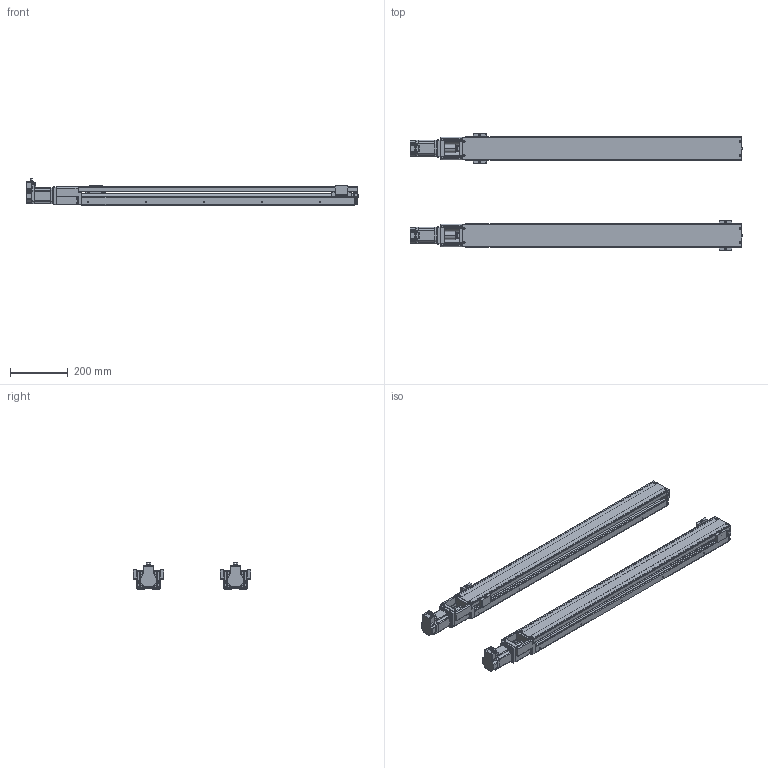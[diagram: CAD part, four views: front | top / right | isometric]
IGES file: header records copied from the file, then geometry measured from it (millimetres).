
Start section: IMSI TurboCAD v14.0
Global section: author: NULL; organization: NULL; date: 20111226.143721; units: millimetre
Bounding box: 1145.01 x 404 x 91.47 mm (x, y, z)
Surface area: 1355504.1 mm2 (no closed solid volume)
Topology: 0 solids, 0 shells, 4720 faces, 23787 edges, 23724 vertices
Faces by surface type: revolution 2708, extrusion 1852, bspline 160
